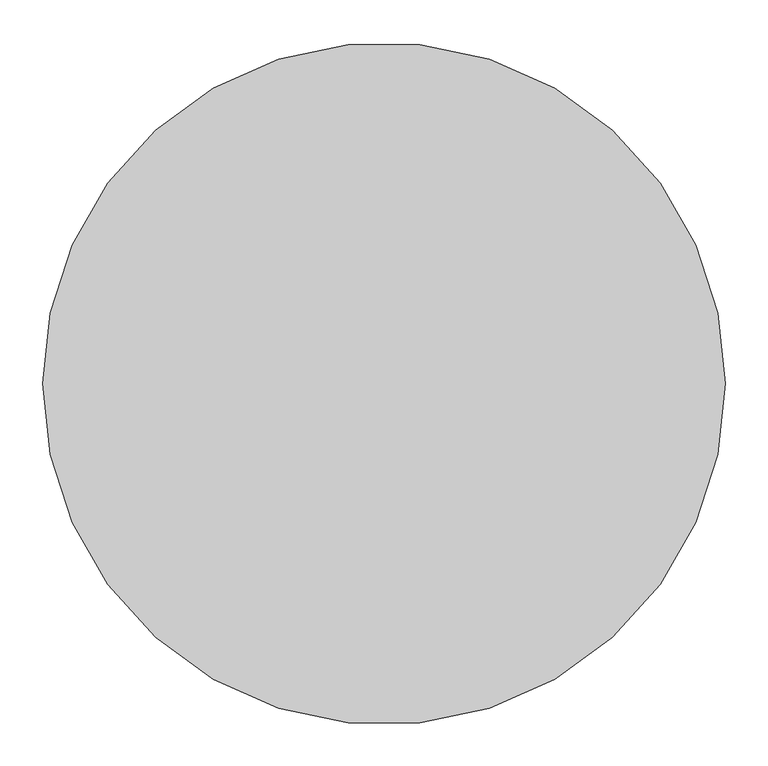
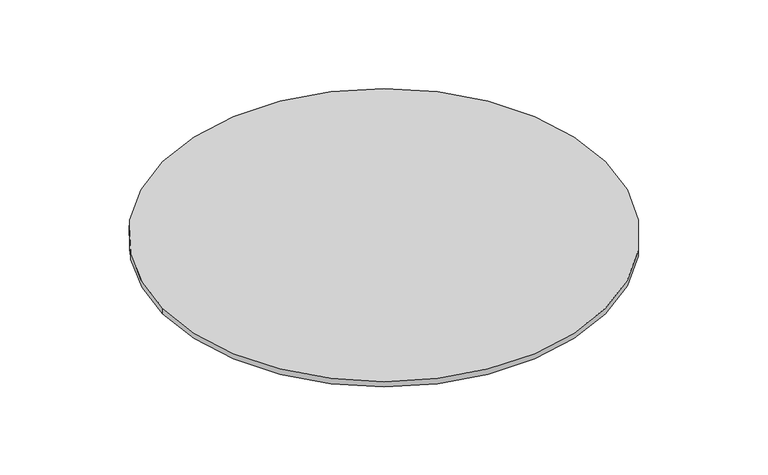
"""IFC4 building model written with IfcOpenShell, lengths in millimetres: furniture geometry, EMU_Table_Outdoor_Heaven_Pouf_GlassTop : 31 1⁄2Dia."""

import ifcopenshell
import ifcopenshell.guid

model = None  # the IFC model being written
_history = None  # IfcOwnerHistory: only IFC2X3 demands one
_inside = {}  # id of a spatial element -> (the spatial element, [elements in it])
_under = {}  # id of a project, library or spatial element -> (it, [spatial elements below it])
_declared = {}  # id of a project -> (the project, [libraries it declares])
_typed = {}  # id of a type object -> (the type object, [elements of that type])
_made_of = {}  # id of a material, layer set ... -> (it, [elements and type objects made of it])


def new_model(schema):
    """Start an empty IFC model of exactly this schema.

    Asked for "IFC4X3", IfcOpenShell would pick the latest addendum, in which some entities
    have other attributes; the version numbers below select the first issue.
    IFC2X3 requires an IfcOwnerHistory on every rooted entity: one is made here for all.
    """
    global model, _history
    if schema == "IFC4X3":
        model = ifcopenshell.file(schema_version=(4, 3, 0, 0))
    else:
        model = ifcopenshell.file(schema=schema)
    _inside.clear()
    _under.clear()
    _declared.clear()
    _typed.clear()
    _made_of.clear()
    _history = None
    if model.schema == "IFC2X3":
        org = make("IfcOrganization", Name="unknown")
        user = make(
            "IfcPersonAndOrganization",
            ThePerson=make("IfcPerson", FamilyName="unknown"),
            TheOrganization=org,
        )
        app = make(
            "IfcApplication",
            ApplicationDeveloper=org,
            Version="unknown",
            ApplicationFullName="unknown",
            ApplicationIdentifier="unknown",
        )
        _history = make(
            "IfcOwnerHistory",
            OwningUser=user,
            OwningApplication=app,
            ChangeAction="ADDED",
            CreationDate=0,
        )
    return model


def make(cls, **values):
    """One entity of the class cls with the attributes given. An attribute that is None is left unset."""
    return model.create_entity(
        cls, **{name: value for name, value in values.items() if value is not None}
    )


def rooted(cls, **values):
    """An entity with a GlobalId (a new one), such as an element, a storey or a relation."""
    return make(cls, GlobalId=ifcopenshell.guid.new(), OwnerHistory=_history, **values)


def si_unit(unit_type, name, prefix=None):
    """IfcSIUnit, for example si_unit("LENGTHUNIT", "METRE", prefix="MILLI")."""
    return make("IfcSIUnit", UnitType=unit_type, Prefix=prefix, Name=name)


def assignment(units):
    """IfcUnitAssignment: the units of a project."""
    return None if units is None else make("IfcUnitAssignment", Units=units)


def point(xyz):
    """IfcCartesianPoint."""
    return None if xyz is None else make("IfcCartesianPoint", Coordinates=xyz)


def direction(xyz):
    """IfcDirection."""
    return None if xyz is None else make("IfcDirection", DirectionRatios=xyz)


def frame(location, z_axis=None, x_axis=None):
    """IfcAxis2Placement3D, a coordinate frame: its origin and axes. An axis left out is left unset."""
    return make(
        "IfcAxis2Placement3D",
        Location=point(location),
        Axis=direction(z_axis),
        RefDirection=direction(x_axis),
    )


def frame_2d(location, x_axis=None):
    """IfcAxis2Placement2D, a coordinate frame in the plane: its origin and x axis."""
    return make(
        "IfcAxis2Placement2D", Location=point(location), RefDirection=direction(x_axis)
    )


def origin():
    """The frame at (0, 0, 0) with its axes left unset."""
    return frame((0.0, 0.0, 0.0))


def place(relative_to, where):
    """IfcLocalPlacement: puts the frame where relative to a parent placement (None: the world)."""
    return make(
        "IfcLocalPlacement", PlacementRelTo=relative_to, RelativePlacement=where
    )


def context(
    kind, dimensions, precision=None, world=None, true_north=None, identifier=None
):
    """IfcGeometricRepresentationContext, for example the 3D "Model" context."""
    return make(
        "IfcGeometricRepresentationContext",
        ContextIdentifier=identifier,
        ContextType=kind,
        CoordinateSpaceDimension=dimensions,
        Precision=precision,
        WorldCoordinateSystem=world,
        TrueNorth=true_north,
    )


def project(units=None, contexts=None):
    """IfcProject with its units and contexts."""
    return rooted(
        "IfcProject",
        Name="project",
        RepresentationContexts=contexts,
        UnitsInContext=assignment(units),
    )


def spatial(cls, under=None, at=None, **own):
    """A site, building, storey or space (cls), placed at a placement, below another one or the project."""
    s = rooted(cls, ObjectPlacement=at, **own)
    if under is not None:
        _under.setdefault(under.id(), (under, []))[1].append(s)
    return s


def circle_curve(where, radius):
    """IfcCircle in the frame where."""
    return make("IfcCircle", Position=where, Radius=radius)


def trimmed(basis, trim1, trim2, sense, master):
    """IfcTrimmedCurve: the piece of a basis curve between two trims."""
    return make(
        "IfcTrimmedCurve",
        BasisCurve=basis,
        Trim1=trim1,
        Trim2=trim2,
        SenseAgreement=sense,
        MasterRepresentation=master,
    )


def segment(curve, same_sense, transition):
    """IfcCompositeCurveSegment."""
    return make(
        "IfcCompositeCurveSegment",
        Transition=transition,
        SameSense=same_sense,
        ParentCurve=curve,
    )


def composite_curve(segments, self_intersect=None):
    """IfcCompositeCurve: segments joined end to end."""
    return make("IfcCompositeCurve", Segments=segments, SelfIntersect=self_intersect)


def outline(outer, holes=None, kind="AREA"):
    """IfcArbitraryClosedProfileDef: a profile drawn as a closed curve; with holes, ...WithVoids."""
    if holes is None:
        return make("IfcArbitraryClosedProfileDef", ProfileType=kind, OuterCurve=outer)
    return make(
        "IfcArbitraryProfileDefWithVoids",
        ProfileType=kind,
        OuterCurve=outer,
        InnerCurves=holes,
    )


def extrude(swept, where, along, depth):
    """IfcExtrudedAreaSolid: the profile swept, set in the frame where, extruded along a direction by depth."""
    return make(
        "IfcExtrudedAreaSolid",
        SweptArea=swept,
        Position=where,
        ExtrudedDirection=direction(along),
        Depth=depth,
    )


def shape(context_of_items, identifier, shape_type, items):
    """IfcShapeRepresentation: the items that make up one representation, for example the "Body"."""
    return make(
        "IfcShapeRepresentation",
        ContextOfItems=context_of_items,
        RepresentationIdentifier=identifier,
        RepresentationType=shape_type,
        Items=items,
    )


def source(mapping_origin, context_of_items, identifier, shape_type, items):
    """IfcRepresentationMap: a shape defined once, which mapped items show again and again."""
    return make(
        "IfcRepresentationMap",
        MappingOrigin=mapping_origin,
        MappedRepresentation=shape(context_of_items, identifier, shape_type, items),
    )


def transform(
    local_origin,
    x_axis=None,
    y_axis=None,
    z_axis=None,
    scale=None,
    scale2=None,
    scale3=None,
    uniform=True,
):
    """IfcCartesianTransformationOperator3D, or its non-uniform kind. x_axis, y_axis, z_axis: its Axis1, 2, 3."""
    if uniform:
        return make(
            "IfcCartesianTransformationOperator3D",
            Axis1=direction(x_axis),
            Axis2=direction(y_axis),
            LocalOrigin=point(local_origin),
            Scale=scale,
            Axis3=direction(z_axis),
        )
    return make(
        "IfcCartesianTransformationOperator3DnonUniform",
        Axis1=direction(x_axis),
        Axis2=direction(y_axis),
        LocalOrigin=point(local_origin),
        Scale=scale,
        Axis3=direction(z_axis),
        Scale2=scale2,
        Scale3=scale3,
    )


def mapped(mapping_source, mapping_target):
    """IfcMappedItem: shows the shape of a source again, moved by a transform."""
    return make(
        "IfcMappedItem", MappingSource=mapping_source, MappingTarget=mapping_target
    )


def made_of(thing, what):
    """Note that an element or type object is made of a material, layer set ...; save() writes the relation."""
    if what is not None:
        _made_of.setdefault(what.id(), (what, []))[1].append(thing)
    return thing


def element(
    cls,
    number,
    at=None,
    inside=None,
    cuts=None,
    type_object=None,
    material=None,
    context=None,
    identifier="Body",
    shape_type=None,
    held_by="IfcProductDefinitionShape",
    body=None,
    shapes=None,
    **own,
):
    """One element of the class cls, such as IfcWall. Its Tag is "e" and its number.

    at: its placement. inside: the storey or other place that contains it. cuts: it is an
    opening in that element (IfcRelVoidsElement). A single representation is given by context,
    identifier, shape_type and body (its items); several are given by shapes. held_by: the class
    of the entity that holds the representations. save() writes the other relations.
    """
    e = rooted(cls, Tag="e%d" % number, ObjectPlacement=at, **own)
    if body is not None:
        shapes = [shape(context, identifier, shape_type, body)]
    if shapes is not None:
        e.Representation = make(held_by, Representations=shapes)
    if inside is not None:
        _inside.setdefault(inside.id(), (inside, []))[1].append(e)
    if cuts is not None:
        rooted(
            "IfcRelVoidsElement", RelatingBuildingElement=cuts, RelatedOpeningElement=e
        )
    if type_object is not None:
        _typed.setdefault(type_object.id(), (type_object, []))[1].append(e)
    return made_of(e, material)


def aggregate(whole, parts):
    """IfcRelAggregates: a whole, such as a stair, and the parts it consists of."""
    return rooted("IfcRelAggregates", RelatingObject=whole, RelatedObjects=parts)


def save(model, path):
    """Write the relations noted so far, then the file.

    IfcRelAggregates (storeys below a building ...), IfcRelContainedInSpatialStructure (elements
    in a storey), IfcRelDefinesByType, IfcRelAssociatesMaterial and IfcRelDeclares: one each for
    every whole, place, type object, material and project.
    """
    for whole, parts in _under.values():
        aggregate(whole, parts)
    for where, things in _inside.values():
        rooted(
            "IfcRelContainedInSpatialStructure",
            RelatedElements=things,
            RelatingStructure=where,
        )
    for kind, things in _typed.values():
        rooted("IfcRelDefinesByType", RelatedObjects=things, RelatingType=kind)
    for what, things in _made_of.values():
        rooted("IfcRelAssociatesMaterial", RelatedObjects=things, RelatingMaterial=what)
    for by, libraries in _declared.values():
        rooted("IfcRelDeclares", RelatingContext=by, RelatedDefinitions=libraries)
    model.write(path)


def furniture_d5b5b585(model_context):
    return source(origin(), model_context, "Body", "SweptSolid", [
        extrude(outline(composite_curve([segment(trimmed(circle_curve(frame_2d((604.5683304, -398.2983219)), 400.05), [point((204.5183304, -398.2983219))], [point((1004.6183304, -398.2983219))], False, "CARTESIAN"), True, "CONTINUOUS"), segment(trimmed(circle_curve(frame_2d((604.5683304, -398.2983219)), 400.05), [point((1004.6183304, -398.2983219))], [point((204.5183304, -398.2983219))], False, "CARTESIAN"), True, "CONTINUOUS")], self_intersect=False)), frame((0.0, 0.0, 740.8140112), z_axis=(0.0, 0.0, 1.0), x_axis=(1.0, 0.0, 0.0)), (0.0, 0.0, 1.0), 10.2668879),
    ])


if __name__ == "__main__":
    model = new_model("IFC4")
    model_context = context("Model", 3, world=origin())
    ifc_project = project(units=[si_unit("LENGTHUNIT", "METRE", prefix="MILLI")], contexts=[model_context])
    site = spatial("IfcSite", under=ifc_project)
    building = spatial("IfcBuilding", under=site)
    placement = place(None, origin())
    furniture_shape = furniture_d5b5b585(model_context)
    element("IfcFurniture", 1, ObjectType="EMU_Table_Outdoor_Heaven_Pouf_GlassTop : 31 1⁄2Dia", at=placement, inside=building, context=model_context, shape_type="MappedRepresentation", body=[
        mapped(furniture_shape, transform((0.0, 0.0, 0.0), x_axis=(1.0, 0.0, 0.0), y_axis=(0.0, 1.0, 0.0), z_axis=(0.0, 0.0, 1.0))),
    ])
    save(model, "model.ifc")
